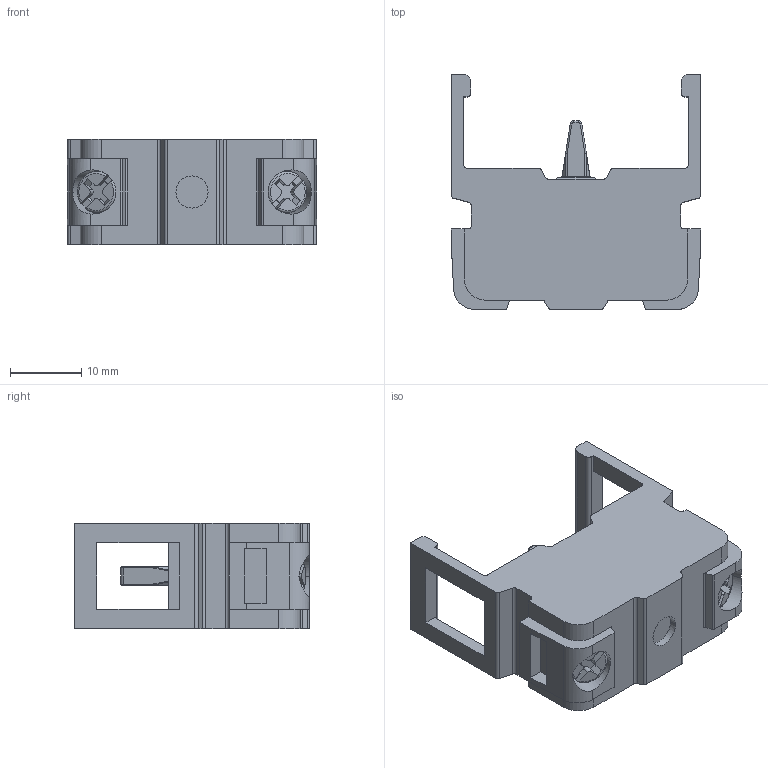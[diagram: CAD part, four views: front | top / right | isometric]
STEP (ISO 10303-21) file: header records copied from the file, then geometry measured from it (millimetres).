
FILE_DESCRIPTION (( 'STEP AP214' ), '1' );
FILE_NAME ('020E10.STEP', '2018-05-14T14:30:19', ( '' ), ( '' ), 'SwSTEP 2.0', 'SolidWorks 2013', '' );
FILE_SCHEMA (( 'AUTOMOTIVE_DESIGN' ));
Length unit declared in the file: millimetre
Products named in the file (1): 020E10
Bounding box: 35 x 33 x 14.8 mm (x, y, z)
Volume: 9599.7 mm3; surface area: 4703.8 mm2
Topology: 4 solids, 4 shells, 244 faces, 644 edges, 402 vertices
Faces by surface type: plane 120, cylinder 82, torus 18, bspline 12, cone 8, sphere 4
Entity records: 10419 total; most frequent: CARTESIAN_POINT 1715, ORIENTED_EDGE 1272, DIRECTION 1234, EDGE_CURVE 636, AXIS2_PLACEMENT_3D 417, VERTEX_POINT 402, VECTOR 400, LINE 400
